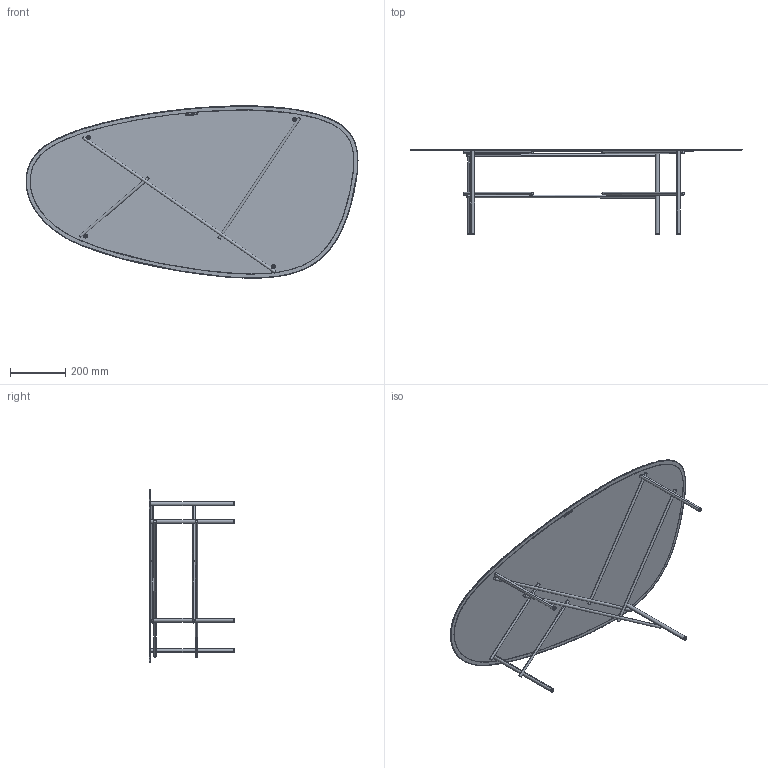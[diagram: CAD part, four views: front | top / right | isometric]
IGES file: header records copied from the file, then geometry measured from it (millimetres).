
Start section: SolidWorks IGES file using analytic representation for surfaces
Global section: file name: \\utenti\Dati Utenti\Tecnico\DC\2D - 3D per sito\3D\DeCastelli-3D-Syro XL 120.igs; native system: SolidWorks 2022; preprocessor: SolidWorks 2022; author: Simonep; date: 240729.120924; units: millimetre
Bounding box: 1199.48 x 308.22 x 623.29 mm (x, y, z)
Surface area: 1926796 mm2 (no closed solid volume)
Topology: 0 solids, 0 shells, 94 faces, 1293 edges, 1285 vertices
Faces by surface type: bspline 66, revolution 28
